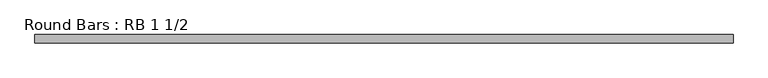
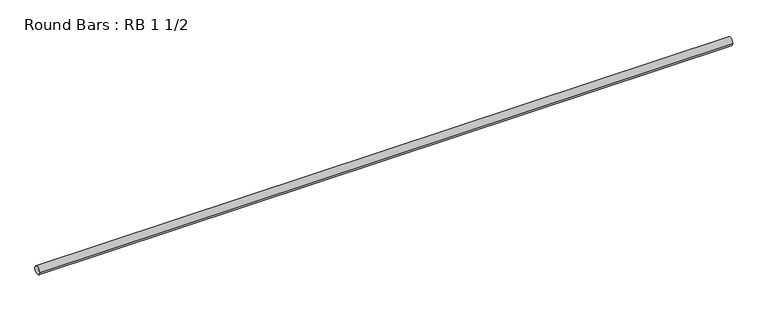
"""IFC4 building model written with IfcOpenShell, lengths in millimetres: member geometry, Round Bars : RB 1 1/2."""

from ifc_helpers import new_model, si_unit, point, frame, origin, origin_2d, place, context, project, spatial, circle_curve, trimmed, segment, composite_curve, outline, extrude, source, transform, mapped, element, save


def round_bars_rb_1_1_2_8b0b2b41(model_context):
    return source(origin(), model_context, "Body", "SweptSolid", [
        extrude(outline(composite_curve([segment(trimmed(circle_curve(origin_2d(), 19.05), [point((19.05, 0.0))], [point((-19.05, 0.0))], False, "CARTESIAN"), True, "CONTINUOUS"), segment(trimmed(circle_curve(origin_2d(), 19.05), [point((-19.05, 0.0))], [point((19.05, 0.0))], False, "CARTESIAN"), True, "CONTINUOUS")], self_intersect=False)), frame((-1598.3523562, 0.0, 0.0), z_axis=(1.0, 0.0, 0.0), x_axis=(0.0, 1.0, 0.0)), (0.0, 0.0, 1.0), 3196.7047125),
    ])


if __name__ == "__main__":
    model = new_model("IFC4")
    model_context = context("Model", 3, world=origin())
    ifc_project = project(units=[si_unit("LENGTHUNIT", "METRE", prefix="MILLI")], contexts=[model_context])
    site = spatial("IfcSite", under=ifc_project)
    building = spatial("IfcBuilding", under=site)
    placement = place(None, origin())
    round_bars_rb_1_1_2_shape = round_bars_rb_1_1_2_8b0b2b41(model_context)
    element("IfcMember", 1, ObjectType="Round Bars : RB 1 1/2", at=placement, inside=building, context=model_context, shape_type="MappedRepresentation", body=[
        mapped(round_bars_rb_1_1_2_shape, transform((0.0, 0.0, 0.0), x_axis=(1.0, 0.0, 0.0), y_axis=(0.0, 1.0, 0.0), z_axis=(0.0, 0.0, 1.0))),
    ])
    save(model, "model.ifc")
